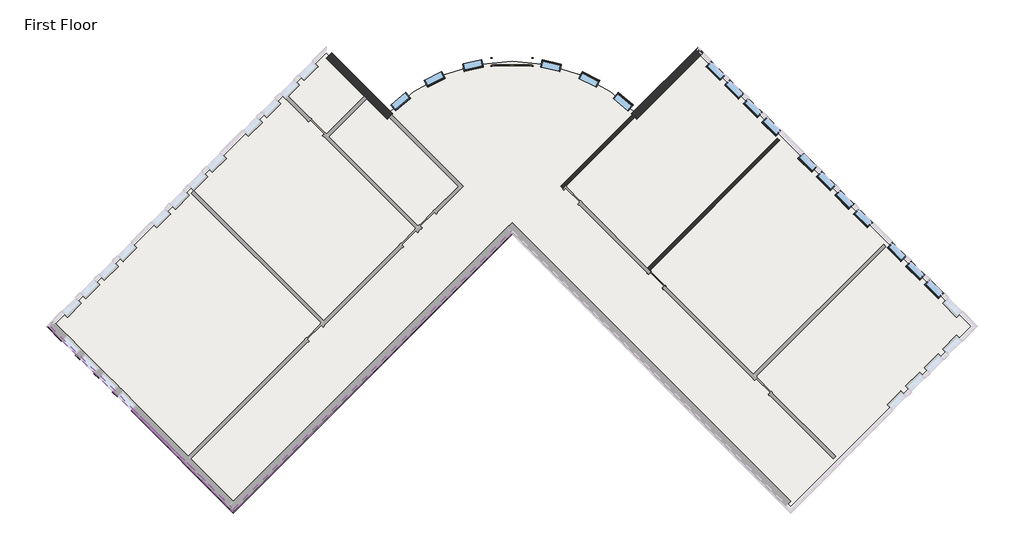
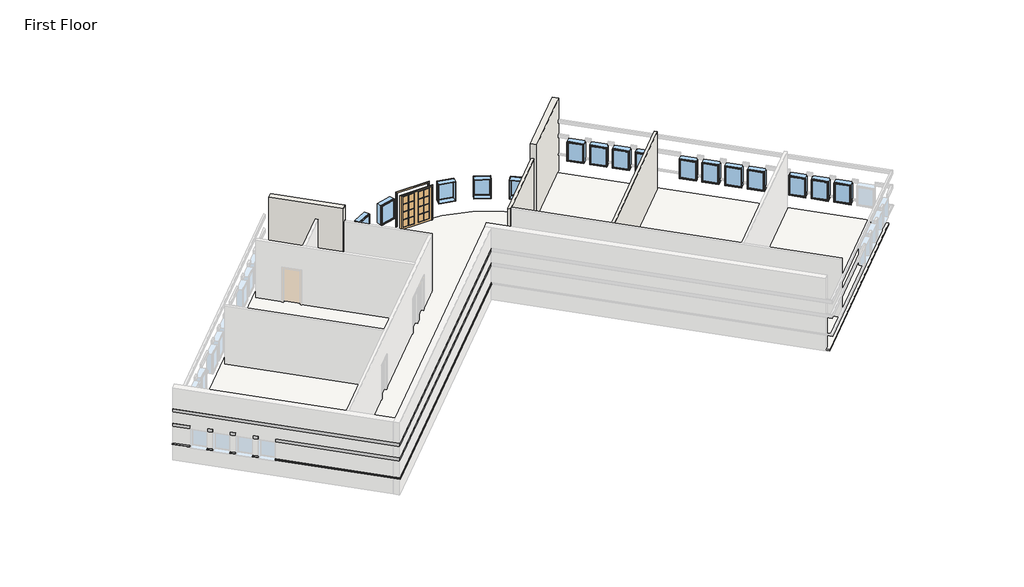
# One storey, part 2 of 3: 17 windows, 6 proxies, 4 walls, 2 doors, 1 slab.
"""IFC4 building model written with IfcOpenShell, lengths in millimetres."""

from ifc_helpers import new_model, si_unit, point, frame, frame_2d, origin, origin_with_axes, place, context, project, spatial, polyline, circle_curve, trimmed, segment, composite_curve, outline, extrude, faceted_brep, transform, mapped, element, save
from ifc_brep_helpers import plane_surface, cylinder_surface, revolved_surface, advanced_brep
from components import door_0a477ef8, door_5f5b55da, window_15c49d37, window_0e2fc6ce

model = new_model("IFC4")

# Units and contexts
model_context = context("Model", 3, world=origin())
ifc_project = project(units=[si_unit("LENGTHUNIT", "METRE", prefix="MILLI")], contexts=[model_context])

# Site, building, storey
site = spatial("IfcSite", under=ifc_project)
building = spatial("IfcBuilding", under=site)
storey = spatial("IfcBuildingStorey", under=building, Name="First Floor", Elevation=0.0)

# Proxies
placement = place(None, origin())
element("IfcBuildingElementProxy", 1, Name="Wall Sweeps", at=placement, inside=storey, context=model_context, shape_type="Brep", body=[
    faceted_brep([(-2868.0283643, 3082.7471418, 1085.85), (-2868.0283643, 2952.533428, 1085.85), (-2868.0283643, 2903.1420194, 1041.4), (-2868.0283643, 2903.1420194, 1016.0), (-2868.0283643, 3082.7471418, 1016.0), (-15799.5971786, -9848.8216726, 1085.85), (-15799.5971786, -9848.8216726, 1016.0), (-15799.5971786, -10028.426795, 1016.0), (-15799.5971786, -10028.426795, 1041.4), (-15799.5971786, -9979.0353863, 1085.85), (-2933.1352212, 3017.6402849, 1085.85), (-2933.1352212, 3017.6402849, 1016.0)], [[[0, 1, 2, 3, 4]], [[5, 6, 7, 8, 9]], [[1, 0, 10, 5, 9]], [[2, 1, 9, 8]], [[3, 2, 8, 7]], [[4, 3, 7, 6, 11]], [[0, 4, 11, 6, 5, 10]]]),
])
element("IfcBuildingElementProxy", 2, Name="Wall Sweeps", at=placement, inside=storey, context=model_context, shape_type="Brep", body=[
    faceted_brep([(-2868.0283643, 2952.533428, 2336.8), (-2868.0283643, 2952.533428, 2133.6), (-2868.0283643, 3082.7471418, 2133.6), (-2868.0283643, 3082.7471418, 2336.8), (-15799.5971786, -9979.0353863, 2336.8), (-15799.5971786, -9848.8216726, 2336.8), (-15799.5971786, -9848.8216726, 2133.6), (-15799.5971786, -9979.0353863, 2133.6), (-2933.1352212, 3017.6402849, 2133.6), (-2933.1352212, 3017.6402849, 2336.8)], [[[0, 1, 2, 3]], [[4, 5, 6, 7]], [[1, 0, 4, 7]], [[2, 1, 7, 6, 8]], [[3, 2, 8, 6, 5, 9]], [[0, 3, 9, 5, 4]]]),
])
element("IfcBuildingElementProxy", 3, Name="Wall Sweeps", at=placement, inside=storey, context=model_context, shape_type="Brep", body=[
    faceted_brep([(-2868.0283643, 2952.533428, 3251.2), (-2868.0283643, 2952.533428, 3048.0), (-2868.0283643, 3082.7471418, 3048.0), (-2868.0283643, 3082.7471418, 3251.2), (-15799.5971786, -9979.0353863, 3251.2), (-15799.5971786, -9848.8216726, 3251.2), (-15799.5971786, -9848.8216726, 3048.0), (-15799.5971786, -9979.0353863, 3048.0), (-2933.1352212, 3017.6402849, 3048.0), (-2933.1352212, 3017.6402849, 3251.2)], [[[0, 1, 2, 3]], [[4, 5, 6, 7]], [[1, 0, 4, 7]], [[2, 1, 7, 6, 8]], [[3, 2, 8, 6, 5, 9]], [[0, 3, 9, 5, 4]]]),
])
element("IfcBuildingElementProxy", 4, Name="Wall Sweeps", at=placement, inside=storey, context=model_context, shape_type="Brep", body=[
    faceted_brep([(-15799.5971786, -9848.8216726, 1085.85), (-15799.5971786, -9979.0353863, 1085.85), (-15799.5971786, -10028.426795, 1041.4), (-15799.5971786, -10028.426795, 1016.0), (-15799.5971786, -9848.8216726, 1016.0), (-20459.2275735, -5189.1912777, 1085.85), (-20459.2275735, -5189.1912777, 1016.0), (-20524.3344303, -5254.2981346, 1016.0), (-20549.0301347, -5278.993839, 1016.0), (-20549.0301347, -5278.993839, 1041.4), (-20524.3344303, -5254.2981346, 1085.85), (-15983.6924291, -9664.7264221, 1085.85), (-15983.6924291, -9664.7264221, 1016.0)], [[[0, 1, 2, 3, 4]], [[5, 6, 7, 8, 9, 10]], [[1, 0, 11, 5, 10]], [[2, 1, 10, 9]], [[3, 2, 9, 8]], [[4, 3, 8, 7, 6, 12]], [[0, 4, 12, 6, 5, 11]]]),
    faceted_brep([(-21105.8060142, -4542.612837, 1085.85), (-21170.9128711, -4607.7196939, 1085.85), (-21195.6085754, -4632.4153982, 1041.4), (-21195.6085754, -4632.4153982, 1016.0), (-21170.9128711, -4607.7196939, 1016.0), (-21105.8060142, -4542.612837, 1016.0), (-21321.3321611, -4327.0866901, 1085.85), (-21321.3321611, -4327.0866901, 1016.0), (-21386.439018, -4392.193547, 1016.0), (-21411.1347223, -4416.8892513, 1016.0), (-21411.1347223, -4416.8892513, 1041.4), (-21386.439018, -4392.193547, 1085.85)], [[[0, 1, 2, 3, 4, 5]], [[6, 7, 8, 9, 10, 11]], [[1, 0, 6, 11]], [[2, 1, 11, 10]], [[3, 2, 10, 9]], [[5, 4, 3, 9, 8, 7]], [[0, 5, 7, 6]]]),
    faceted_brep([(-21967.9106018, -3680.5082494, 1085.85), (-22033.0174587, -3745.6151063, 1085.85), (-22057.713163, -3770.3108106, 1041.4), (-22057.713163, -3770.3108106, 1016.0), (-22033.0174587, -3745.6151063, 1016.0), (-21967.9106018, -3680.5082494, 1016.0), (-22183.4367487, -3464.9821025, 1085.85), (-22183.4367487, -3464.9821025, 1016.0), (-22248.5436056, -3530.0889594, 1016.0), (-22273.2393099, -3554.7846637, 1016.0), (-22273.2393099, -3554.7846637, 1041.4), (-22248.5436056, -3530.0889594, 1085.85)], [[[0, 1, 2, 3, 4, 5]], [[6, 7, 8, 9, 10, 11]], [[1, 0, 6, 11]], [[2, 1, 11, 10]], [[3, 2, 10, 9]], [[5, 4, 3, 9, 8, 7]], [[0, 5, 7, 6]]]),
    faceted_brep([(-22830.0151894, -2818.4036618, 1085.85), (-22895.1220463, -2883.5105187, 1085.85), (-22919.8177506, -2908.206223, 1041.4), (-22919.8177506, -2908.206223, 1016.0), (-22895.1220463, -2883.5105187, 1016.0), (-22830.0151894, -2818.4036618, 1016.0), (-23045.5413363, -2602.8775149, 1085.85), (-23045.5413363, -2602.8775149, 1016.0), (-23110.6481932, -2667.9843718, 1016.0), (-23135.3438975, -2692.6800761, 1016.0), (-23135.3438975, -2692.6800761, 1041.4), (-23110.6481932, -2667.9843718, 1085.85)], [[[0, 1, 2, 3, 4, 5]], [[6, 7, 8, 9, 10, 11]], [[1, 0, 6, 11]], [[2, 1, 11, 10]], [[3, 2, 10, 9]], [[5, 4, 3, 9, 8, 7]], [[0, 5, 7, 6]]]),
    faceted_brep([(-23692.119777, -1956.2990742, 1085.85), (-23757.2266339, -2021.405931, 1085.85), (-23781.9223383, -2046.1016354, 1041.4), (-23781.9223383, -2046.1016354, 1016.0), (-23757.2266339, -2021.405931, 1016.0), (-23692.119777, -1956.2990742, 1016.0), (-24290.4293411, -1357.9895101, 1085.85), (-24290.4293411, -1357.9895101, 1016.0), (-24470.0344635, -1357.9895101, 1016.0), (-24470.0344635, -1357.9895101, 1041.4), (-24420.6430549, -1357.9895101, 1085.85)], [[[0, 1, 2, 3, 4, 5]], [[6, 7, 8, 9, 10]], [[1, 0, 6, 10]], [[2, 1, 10, 9]], [[3, 2, 9, 8]], [[5, 4, 3, 8, 7]], [[0, 5, 7, 6]]]),
])
element("IfcBuildingElementProxy", 5, Name="Wall Sweeps", at=placement, inside=storey, context=model_context, shape_type="Brep", body=[
    faceted_brep([(-15799.5971786, -9979.0353863, 2336.8), (-15799.5971786, -9979.0353863, 2133.6), (-15799.5971786, -9848.8216726, 2133.6), (-15799.5971786, -9848.8216726, 2336.8), (-20524.3344303, -5254.2981346, 2336.8), (-20459.2275735, -5189.1912777, 2336.8), (-20459.2275735, -5189.1912777, 2133.6), (-20524.3344303, -5254.2981346, 2133.6), (-16048.799286, -9729.833279, 2336.8), (-16048.799286, -9729.833279, 2133.6), (-15983.6924291, -9664.7264221, 2133.6), (-15983.6924291, -9664.7264221, 2336.8)], [[[0, 1, 2, 3]], [[4, 5, 6, 7]], [[1, 0, 8, 4, 7, 9]], [[2, 1, 9, 7, 6, 10]], [[3, 2, 10, 6, 5, 11]], [[0, 3, 11, 5, 4, 8]]]),
    faceted_brep([(-21170.9128711, -4607.7196939, 2336.8), (-21170.9128711, -4607.7196939, 2133.6), (-21105.8060142, -4542.612837, 2133.6), (-21105.8060142, -4542.612837, 2336.8), (-21386.439018, -4392.193547, 2336.8), (-21321.3321611, -4327.0866901, 2336.8), (-21321.3321611, -4327.0866901, 2133.6), (-21386.439018, -4392.193547, 2133.6)], [[[0, 1, 2, 3]], [[4, 5, 6, 7]], [[1, 0, 4, 7]], [[2, 1, 7, 6]], [[3, 2, 6, 5]], [[0, 3, 5, 4]]]),
    faceted_brep([(-22033.0174587, -3745.6151063, 2336.8), (-22033.0174587, -3745.6151063, 2133.6), (-21967.9106018, -3680.5082494, 2133.6), (-21967.9106018, -3680.5082494, 2336.8), (-22248.5436056, -3530.0889594, 2336.8), (-22183.4367487, -3464.9821025, 2336.8), (-22183.4367487, -3464.9821025, 2133.6), (-22248.5436056, -3530.0889594, 2133.6)], [[[0, 1, 2, 3]], [[4, 5, 6, 7]], [[1, 0, 4, 7]], [[2, 1, 7, 6]], [[3, 2, 6, 5]], [[0, 3, 5, 4]]]),
    faceted_brep([(-22895.1220463, -2883.5105187, 2336.8), (-22895.1220463, -2883.5105187, 2133.6), (-22830.0151894, -2818.4036618, 2133.6), (-22830.0151894, -2818.4036618, 2336.8), (-23110.6481932, -2667.9843718, 2336.8), (-23045.5413363, -2602.8775149, 2336.8), (-23045.5413363, -2602.8775149, 2133.6), (-23110.6481932, -2667.9843718, 2133.6)], [[[0, 1, 2, 3]], [[4, 5, 6, 7]], [[1, 0, 4, 7]], [[2, 1, 7, 6]], [[3, 2, 6, 5]], [[0, 3, 5, 4]]]),
    faceted_brep([(-23757.2266339, -2021.405931, 2336.8), (-23757.2266339, -2021.405931, 2133.6), (-23692.119777, -1956.2990742, 2133.6), (-23692.119777, -1956.2990742, 2336.8), (-24420.6430549, -1357.9895101, 2336.8), (-24290.4293411, -1357.9895101, 2336.8), (-24290.4293411, -1357.9895101, 2133.6), (-24420.6430549, -1357.9895101, 2133.6)], [[[0, 1, 2, 3]], [[4, 5, 6, 7]], [[1, 0, 4, 7]], [[2, 1, 7, 6]], [[3, 2, 6, 5]], [[0, 3, 5, 4]]]),
])
element("IfcBuildingElementProxy", 6, Name="Wall Sweeps", at=placement, inside=storey, context=model_context, shape_type="Brep", body=[
    faceted_brep([(-15799.5971786, -9979.0353863, 3251.2), (-15799.5971786, -9979.0353863, 3048.0), (-15799.5971786, -9848.8216726, 3048.0), (-15799.5971786, -9848.8216726, 3251.2), (-24420.6430549, -1357.9895101, 3251.2), (-24290.4293411, -1357.9895101, 3251.2), (-24290.4293411, -1357.9895101, 3048.0), (-24420.6430549, -1357.9895101, 3048.0), (-16048.799286, -9729.833279, 3251.2), (-16048.799286, -9729.833279, 3048.0), (-15983.6924291, -9664.7264221, 3048.0), (-15983.6924291, -9664.7264221, 3251.2)], [[[0, 1, 2, 3]], [[4, 5, 6, 7]], [[1, 0, 8, 4, 7, 9]], [[2, 1, 9, 7, 6, 10]], [[3, 2, 10, 6, 5, 11]], [[0, 3, 11, 5, 4, 8]]]),
])

# Doors
door_shape = door_0a477ef8(model_context)
element("IfcDoor", 7, ObjectType="Double-Glass 2 : 72\" x 84\"", at=placement, inside=storey, context=model_context, shape_type="MappedRepresentation", body=[
    mapped(door_shape, transform((-2868.7603243, 10905.5717204, 0.0), x_axis=(-0.9999999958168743, -9.146721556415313e-05, 0.0), y_axis=(9.146721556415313e-05, -0.9999999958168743, 0.0), z_axis=(0.0, 0.0, 1.0))),
])
door_2_shape = door_5f5b55da(model_context)
element("IfcDoor", 8, ObjectType="Single-Glass 1 : 36\" x 84\"", at=placement, inside=storey, context=model_context, shape_type="MappedRepresentation", body=[
    mapped(door_2_shape, transform((3846.9581502, 797.271959, 0.0), x_axis=(-0.7071067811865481, 0.7071067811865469, 0.0), y_axis=(-0.7071067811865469, -0.7071067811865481, 0.0), z_axis=(0.0, 0.0, 1.0))),
])

# Slab
element("IfcSlab", 9, ObjectType="4\" Concrete Slab", at=placement, inside=storey, context=model_context, shape_type="SweptSolid", body=[
    extrude(outline(composite_curve([segment(polyline([(-11489.0742405, 11308.6617487), (-8661.5174871, 8481.1049952)]), True, "CONTINUOUS"), segment(trimmed(circle_curve(frame_2d((-2868.0283643, 2903.1420194)), 8042.275), [point((-8661.5174871, 8481.1049952))], [point((2925.4607585, 8481.1049952))], False, "CARTESIAN"), True, "CONTINUOUS"), segment(polyline([(2925.4607585, 8481.1049952), (5753.0175119, 11308.6617487), (18419.6687707, -1357.9895101), (10063.54045, -9714.1178307), (-2868.0283643, 3217.4509836), (-15799.5971786, -9714.1178307), (-24155.7254993, -1357.9895101), (-11489.0742405, 11308.6617487)]), True, "CONTINUOUS")], self_intersect=False)), frame((0.0, 0.0, -101.6), z_axis=(0.0, 0.0, 1.0), x_axis=(1.0, 0.0, 0.0)), (0.0, 0.0, 1.0), 101.6),
])

# Walls
element("IfcWall", 10, ObjectType="Exterior - Split Face and CMU on Mtl. Stud", at=placement, inside=storey, context=model_context, shape_type="AdvancedBrep", body=[
    advanced_brep(
    [(2921.9555443, 8244.1131219, 4572.0), (5753.0175119, 11075.1750895, 4572.0), (6002.2196193, 11324.3771969, 4572.0), (5753.0175119, 11573.5793042, 4572.0), (2926.4294954, 8746.9912878, 4572.0), (2677.2250436, 8497.7868359, 4572.0), (2921.9555443, 8244.1131219, 0.0), (5753.0175119, 11075.1750895, 0.0), (6002.2196193, 11324.3771969, 0.0), (6002.2196193, 11324.3771969, 1016.0), (5937.1127624, 11259.27034, 1016.0), (5937.1127624, 11259.27034, 1085.85), (6002.2196193, 11324.3771969, 1085.85), (6002.2196193, 11324.3771969, 2133.6), (5937.1127624, 11259.27034, 2133.6), (5937.1127624, 11259.27034, 2336.8), (6002.2196193, 11324.3771969, 2336.8), (6002.2196193, 11324.3771969, 3048.0), (5937.1127624, 11259.27034, 3048.0), (5937.1127624, 11259.27034, 3251.2), (6002.2196193, 11324.3771969, 3251.2), (5753.0175119, 11573.5793042, 3251.2), (2926.4294954, 8746.9912878, 3251.2), (2861.3220456, 8681.8838379, 3251.2), (2861.3220456, 8681.8838379, 3048.0), (2926.4294954, 8746.9912878, 3048.0), (5753.0175119, 11573.5793042, 3048.0), (5753.0175119, 11573.5793042, 2336.8), (2926.4294954, 8746.9912878, 2336.8), (2861.3220456, 8681.8838379, 2336.8), (2861.3220456, 8681.8838379, 2133.6), (2926.4294954, 8746.9912878, 2133.6), (5753.0175119, 11573.5793042, 2133.6), (5753.0175119, 11573.5793042, 1085.85), (2926.4294954, 8746.9912878, 1085.85), (2861.3220456, 8681.8838379, 1085.85), (2861.3220456, 8681.8838379, 1016.0), (2926.4294954, 8746.9912878, 1016.0), (5753.0175119, 11573.5793042, 1016.0), (5753.0175119, 11573.5793042, 0.0), (2926.4294954, 8746.9912878, 0.0), (2677.2250436, 8497.7868359, 0.0), (2821.6573727, 8350.8353182, 0.0), (2742.2400511, 8432.5881297, 0.0), (5818.1243688, 11508.4724474, 0.0), (2712.9543912, 8462.145299, 0.0), (5753.0175119, 11443.3655905, 1085.85), (2926.3399919, 8616.6880705, 1085.85), (2926.3399919, 8616.6880705, 1016.0), (5753.0175119, 11443.3655905, 1016.0), (2926.3399919, 8616.6880705, 2133.6), (5753.0175119, 11443.3655905, 2133.6), (2926.3399919, 8616.6880705, 2336.8), (5753.0175119, 11443.3655905, 2336.8), (2926.3399919, 8616.6880705, 3048.0), (5753.0175119, 11443.3655905, 3048.0), (2926.3399919, 8616.6880705, 3251.2), (5753.0175119, 11443.3655905, 3251.2)],
    [
        (0, 1),
        (1, 2),
        (2, 3),
        (3, 4),
        (4, 5),
        (5, 0, circle_curve(frame((-2868.0283643, 2903.1420194, 4572.0), z_axis=(0.0, 0.0, -1.0), x_axis=(1.0, 0.0, 0.0)), 7877.175)),
        (6, 7),
        (7, 8),
        (8, 9),
        (9, 10),
        (10, 11),
        (11, 12),
        (12, 13),
        (13, 14),
        (14, 15),
        (15, 16),
        (16, 17),
        (17, 18),
        (18, 19),
        (19, 20),
        (20, 2),
        (0, 6),
        (3, 21),
        (21, 22),
        (22, 23),
        (23, 24),
        (24, 25),
        (25, 26),
        (26, 27),
        (27, 28),
        (28, 29),
        (29, 30),
        (30, 31),
        (31, 32),
        (32, 33),
        (33, 34),
        (34, 35),
        (35, 36),
        (36, 37),
        (37, 38),
        (38, 39),
        (39, 40),
        (40, 41),
        (41, 5),
        (6, 42, circle_curve(frame((-2868.0283643, 2903.1420194, 0.0), z_axis=(0.0, 0.0, 1.0), x_axis=(1.0, 0.0, 0.0)), 7877.175)),
        (42, 43, circle_curve(frame((-2868.0283643, 2903.1420194, 0.0), z_axis=(0.0, 0.0, 1.0), x_axis=(1.0, 0.0, 0.0)), 7877.1750053)),
        (43, 44),
        (44, 8),
        (20, 21),
        (44, 39),
        (38, 9),
        (12, 33),
        (32, 13),
        (16, 27),
        (26, 17),
        (43, 45, circle_curve(frame((-2868.0283643, 2903.1420194, 0.0), z_axis=(0.0, 0.0, 1.0), x_axis=(1.0, 0.0, 0.0)), 7877.175)),
        (45, 41, circle_curve(frame((-2868.0283643, 2903.1420194, 0.0), z_axis=(0.0, 0.0, 1.0), x_axis=(1.0, 0.0, 0.0)), 7877.175)),
        (46, 47),
        (47, 35, circle_curve(frame((-2868.0283643, 2903.1420194, 1085.85), z_axis=(0.0, 0.0, 1.0), x_axis=(0.6844196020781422, 0.7290883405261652, 0.0)), 8137.525)),
        (11, 46),
        (48, 49),
        (49, 10),
        (36, 48, circle_curve(frame((-2868.0283643, 2903.1420194, 1016.0), z_axis=(0.0, 0.0, -1.0), x_axis=(0.6844196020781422, 0.7290883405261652, 0.0)), 8137.525)),
        (47, 48),
        (46, 49),
        (50, 51),
        (51, 14),
        (30, 50, circle_curve(frame((-2868.0283643, 2903.1420194, 2133.6), z_axis=(0.0, 0.0, -1.0), x_axis=(0.6844196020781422, 0.7290883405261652, 0.0)), 8137.525)),
        (52, 50),
        (29, 52, circle_curve(frame((-2868.0283643, 2903.1420194, 2336.8), z_axis=(0.0, 0.0, -1.0), x_axis=(0.6844196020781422, 0.7290883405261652, 0.0)), 8137.525)),
        (53, 52),
        (15, 53),
        (53, 51),
        (54, 55),
        (55, 18),
        (24, 54, circle_curve(frame((-2868.0283643, 2903.1420194, 3048.0), z_axis=(0.0, 0.0, -1.0), x_axis=(-0.7040995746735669, 0.7101012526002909, 0.0)), 8137.525)),
        (56, 54),
        (23, 56, circle_curve(frame((-2868.0283643, 2903.1420194, 3251.2), z_axis=(0.0, 0.0, -1.0), x_axis=(-0.7040995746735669, 0.7101012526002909, 0.0)), 8137.525)),
        (57, 56),
        (19, 57),
        (57, 55),
    ],
    [
        plane_surface(frame((5877.6185656, 11199.7761432, 4572.0), z_axis=(0.0, 0.0, 1.0), x_axis=(-0.707106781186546, 0.7071067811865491, 0.0))),
        plane_surface(frame((2984.8535626, 8307.0111402, 0.0), z_axis=(0.707106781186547, -0.7071067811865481, 0.0), x_axis=(0.7071067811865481, 0.707106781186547, 0.0))),
        plane_surface(frame((2735.6514552, 8556.2132476, 0.0), z_axis=(-0.707106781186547, 0.7071067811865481, 0.0), x_axis=(-0.7071067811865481, -0.707106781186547, 0.0))),
        plane_surface(frame((3050.2065213, 8372.3640989, 0.0), z_axis=(0.0, 0.0, -1.0000000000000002), x_axis=(-0.7071067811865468, 0.7071067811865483, 0.0))),
        plane_surface(frame((5753.0175119, 11573.5793042, 0.0), z_axis=(0.7071067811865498, 0.7071067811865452, 0.0), x_axis=(-0.7071067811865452, 0.7071067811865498, 0.0))),
        plane_surface(frame((0.0, 0.0, 0.0), z_axis=(0.0, 0.0, -1.0), x_axis=(1.0, 0.0, 0.0))),
        revolved_surface(polyline([(5009.146635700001, 2903.1420194, 0.0), (5009.146635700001, 2903.1420194, 4572.0)]), (-2868.0283643, 2903.1420194, 0.0), (0.0, 0.0, -1.0)),
        plane_surface(frame((-2868.0283643, 2903.1420194, 1085.85), z_axis=(0.0, 0.0, -1.0), x_axis=(0.6844196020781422, 0.7290883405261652, 0.0))),
        plane_surface(frame((-2868.0283643, 2903.1420194, 1016.0), z_axis=(0.0, 0.0, 1.0), x_axis=(0.6844196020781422, 0.7290883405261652, 0.0))),
        cylinder_surface(frame((-2868.0283643, 2903.1420194, 1016.0), z_axis=(0.0, 0.0, -1.0), x_axis=(0.6844196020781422, 0.7290883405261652, 0.0)), 8137.525),
        plane_surface(frame((2926.3399919, 8616.6880705, 1016.0), z_axis=(-0.7071067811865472, 0.7071067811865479, 0.0), x_axis=(0.7071067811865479, 0.7071067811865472, 0.0))),
        plane_surface(frame((5753.0175119, 11443.3655905, 1016.0), z_axis=(0.7071067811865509, 0.7071067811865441, 0.0), x_axis=(0.7071067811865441, -0.7071067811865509, 0.0))),
        plane_surface(frame((-2868.0283643, 2903.1420194, 2133.6), z_axis=(0.0, 0.0, 1.0), x_axis=(0.6844196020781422, 0.7290883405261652, 0.0))),
        cylinder_surface(frame((-2868.0283643, 2903.1420194, 2133.6), z_axis=(0.0, 0.0, -1.0), x_axis=(0.6844196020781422, 0.7290883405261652, 0.0)), 8137.525),
        plane_surface(frame((-2868.0283643, 2903.1420194, 2336.8), z_axis=(0.0, 0.0, -1.0), x_axis=(0.6844196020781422, 0.7290883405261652, 0.0))),
        plane_surface(frame((2926.3399919, 8616.6880705, 2133.6), z_axis=(-0.707106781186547, 0.707106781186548, 0.0), x_axis=(0.707106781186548, 0.707106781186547, 0.0))),
        plane_surface(frame((5753.0175119, 11443.3655905, 2133.6), z_axis=(0.7071067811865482, 0.7071067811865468, 0.0), x_axis=(0.7071067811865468, -0.7071067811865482, 0.0))),
        plane_surface(frame((-2868.0283643, 2903.1420194, 3048.0), z_axis=(0.0, 0.0, 1.0), x_axis=(-0.7040995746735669, 0.7101012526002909, 0.0))),
        cylinder_surface(frame((-2868.0283643, 2903.1420194, 3048.0), z_axis=(0.0, 0.0, -1.0), x_axis=(-0.7040995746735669, 0.7101012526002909, 0.0)), 8137.525),
        plane_surface(frame((-2868.0283643, 2903.1420194, 3251.2), z_axis=(0.0, 0.0, -1.0), x_axis=(-0.7040995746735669, 0.7101012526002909, 0.0))),
        plane_surface(frame((2926.3399919, 8616.6880705, 3048.0), z_axis=(-0.707106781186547, 0.7071067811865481, 0.0), x_axis=(0.7071067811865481, 0.707106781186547, 0.0))),
        plane_surface(frame((5753.0175119, 11443.3655905, 3048.0), z_axis=(0.7071067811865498, 0.7071067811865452, 0.0), x_axis=(0.7071067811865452, -0.7071067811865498, 0.0))),
    ],
    [
        (0, [[1, 2, 3, 4, 5, 6]]),
        (1, [[7, 8, 9, 10, 11, 12, 13, 14, 15, 16, 17, 18, 19, 20, 21, -2, -1, 22]]),
        (2, [[-5, -4, 23, 24, 25, 26, 27, 28, 29, 30, 31, 32, 33, 34, 35, 36, 37, 38, 39, 40, 41, 42, 43, 44]]),
        (3, [[-8, -7, 45, 46, 47, 48]]),
        (4, [[-3, -21, 49, -23]]),
        (4, [[-48, 50, -41, 51, -9]]),
        (4, [[52, -35, 53, -13]]),
        (4, [[54, -29, 55, -17]]),
        (5, [[-43, -42, -50, -47, 56, 57]]),
        (6, [[-6, -44, -57, -56, -46, -45, -22]]),
        (7, [[58, 59, -37, -36, -52, -12, 60]]),
        (8, [[61, 62, -10, -51, -40, -39, 63]]),
        (9, [[64, -63, -38, -59]]),
        (10, [[-58, 65, -61, -64]]),
        (11, [[-65, -60, -11, -62]]),
        (12, [[66, 67, -14, -53, -34, -33, 68]]),
        (13, [[69, -68, -32, 70]]),
        (14, [[71, -70, -31, -30, -54, -16, 72]]),
        (15, [[-66, -69, -71, 73]]),
        (16, [[-73, -72, -15, -67]]),
        (17, [[74, 75, -18, -55, -28, -27, 76]]),
        (18, [[77, -76, -26, 78]]),
        (19, [[79, -78, -25, -24, -49, -20, 80]]),
        (20, [[-74, -77, -79, 81]]),
        (21, [[-81, -80, -19, -75]]),
    ],
),
])
element("IfcWall", 11, ObjectType="Exterior - Split Face and CMU on Mtl. Stud", at=placement, inside=storey, context=model_context, shape_type="AdvancedBrep", body=[
    advanced_brep(
    [(-11489.0742405, 11075.1750895, 4572.0), (-8658.0122729, 8244.1131219, 4572.0), (-8413.2817722, 8497.7868359, 4572.0), (-8662.486224, 8746.9912878, 4572.0), (-11239.8721332, 11324.3771969, 4572.0), (-11489.0742405, 11075.1750895, 0.0), (-9728.9440408, 9315.0448898, 0.0), (-9618.9359033, 9205.0367523, 0.0), (-8658.0122729, 8244.1131219, 0.0), (-8413.2817722, 8497.7868359, 0.0), (-8662.486224, 8746.9912878, 0.0), (-11239.8721332, 11324.3771969, 0.0), (-11239.8721332, 11324.3771969, 1016.0), (-8662.486224, 8746.9912878, 1016.0), (-8597.3787742, 8681.8838379, 1016.0), (-8597.3787742, 8681.8838379, 1085.85), (-8662.486224, 8746.9912878, 1085.85), (-11239.8721332, 11324.3771969, 1085.85), (-11239.8721332, 11324.3771969, 2133.6), (-8662.486224, 8746.9912878, 2133.6), (-8597.3787742, 8681.8838379, 2133.6), (-8597.3787742, 8681.8838379, 2336.8), (-8662.486224, 8746.9912878, 2336.8), (-11239.8721332, 11324.3771969, 2336.8), (-11239.8721332, 11324.3771969, 3048.0), (-8662.486224, 8746.9912878, 3048.0), (-8597.3787742, 8681.8838379, 3048.0), (-8597.3787742, 8681.8838379, 3251.2), (-8662.486224, 8746.9912878, 3251.2), (-11239.8721332, 11324.3771969, 3251.2), (-11304.9789901, 11259.27034, 0.0), (-8478.2967797, 8432.5881297, 0.0), (-11304.9789901, 11259.27034, 3251.2), (-11304.9789901, 11259.27034, 3048.0), (-11304.9789901, 11259.27034, 2336.8), (-11304.9789901, 11259.27034, 2133.6), (-11304.9789901, 11259.27034, 1085.85), (-11304.9789901, 11259.27034, 1016.0), (-8662.3967205, 8616.6880705, 1085.85), (-8662.3967205, 8616.6880705, 1016.0), (-8662.3967205, 8616.6880705, 2336.8), (-8662.3967205, 8616.6880705, 2133.6), (-8662.3967205, 8616.6880705, 3251.2), (-8662.3967205, 8616.6880705, 3048.0)],
    [
        (0, 1),
        (1, 2, circle_curve(frame((-2868.0283643, 2903.1420194, 4572.0), z_axis=(0.0, 0.0, -1.0), x_axis=(1.0, 0.0, 0.0)), 7877.175)),
        (2, 3),
        (3, 4),
        (4, 0),
        (5, 6),
        (6, 7),
        (7, 8),
        (8, 1),
        (0, 5),
        (2, 9),
        (9, 10),
        (10, 11),
        (11, 12),
        (12, 13),
        (13, 14),
        (14, 15),
        (15, 16),
        (16, 17),
        (17, 18),
        (18, 19),
        (19, 20),
        (20, 21),
        (21, 22),
        (22, 23),
        (23, 24),
        (24, 25),
        (25, 26),
        (26, 27),
        (27, 28),
        (28, 29),
        (29, 4),
        (5, 30),
        (30, 31),
        (31, 8, circle_curve(frame((-2868.0283643, 2903.1420194, 0.0), z_axis=(0.0, 0.0, 1.0), x_axis=(1.0, 0.0, 0.0)), 7877.175)),
        (29, 32),
        (32, 33),
        (33, 24),
        (23, 34),
        (34, 35),
        (35, 18),
        (17, 36),
        (36, 37),
        (37, 12),
        (11, 30),
        (9, 31, circle_curve(frame((-2868.0283643, 2903.1420194, 0.0), z_axis=(0.0, 0.0, 1.0), x_axis=(1.0, 0.0, 0.0)), 7877.175)),
        (38, 39),
        (39, 37),
        (36, 38),
        (15, 38, circle_curve(frame((-2868.0283643, 2903.1420194, 1085.85), z_axis=(0.0, 0.0, 1.0), x_axis=(-0.7040995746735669, 0.7101012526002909, 0.0)), 8137.525)),
        (39, 14, circle_curve(frame((-2868.0283643, 2903.1420194, 1016.0), z_axis=(0.0, 0.0, -1.0), x_axis=(-0.7040995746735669, 0.7101012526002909, 0.0)), 8137.525)),
        (40, 41),
        (41, 35),
        (34, 40),
        (41, 20, circle_curve(frame((-2868.0283643, 2903.1420194, 2133.6), z_axis=(0.0, 0.0, -1.0), x_axis=(-0.7120553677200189, 0.7021233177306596, 0.0)), 8137.525)),
        (40, 21, circle_curve(frame((-2868.0283643, 2903.1420194, 2336.8), z_axis=(0.0, 0.0, -1.0), x_axis=(-0.7120553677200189, 0.7021233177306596, 0.0)), 8137.525)),
        (42, 43),
        (43, 33),
        (32, 42),
        (43, 26, circle_curve(frame((-2868.0283643, 2903.1420194, 3048.0), z_axis=(0.0, 0.0, -1.0), x_axis=(-0.7120553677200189, 0.7021233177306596, 0.0)), 8137.525)),
        (42, 27, circle_curve(frame((-2868.0283643, 2903.1420194, 3251.2), z_axis=(0.0, 0.0, -1.0), x_axis=(-0.7120553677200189, 0.7021233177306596, 0.0)), 8137.525)),
    ],
    [
        plane_surface(frame((-8786.2632499, 8372.3640989, 4572.0), z_axis=(0.0, 0.0, 1.0), x_axis=(0.7071067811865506, 0.7071067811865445, 0.0))),
        plane_surface(frame((-11738.2763479, 11324.3771969, 0.0), z_axis=(-0.7071067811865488, -0.7071067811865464, 0.0), x_axis=(0.7071067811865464, -0.7071067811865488, 0.0))),
        plane_surface(frame((-11489.0742405, 11573.5793042, 0.0), z_axis=(0.7071067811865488, 0.7071067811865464, 0.0), x_axis=(-0.7071067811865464, 0.7071067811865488, 0.0))),
        plane_surface(frame((-11613.6752942, 11199.7761432, 0.0), z_axis=(0.0, 0.0, -1.0000000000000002), x_axis=(0.7071067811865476, 0.7071067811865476, 0.0))),
        plane_surface(frame((-24171.4409475, -1607.1916175, 0.0), z_axis=(-0.7071067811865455, 0.7071067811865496, 0.0), x_axis=(0.7071067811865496, 0.7071067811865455, 0.0))),
        plane_surface(frame((0.0, 0.0, 0.0), z_axis=(0.0, 0.0, -1.0), x_axis=(1.0, 0.0, 0.0))),
        revolved_surface(polyline([(5009.146635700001, 2903.1420194, 0.0), (5009.146635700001, 2903.1420194, 4572.0)]), (-2868.0283643, 2903.1420194, 0.0), (0.0, 0.0, -1.0)),
        plane_surface(frame((-11489.0742405, 11443.3655905, 1016.0), z_axis=(0.7071067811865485, 0.7071067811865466, 0.0), x_axis=(0.7071067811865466, -0.7071067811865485, 0.0))),
        plane_surface(frame((-2868.0283643, 2903.1420194, 1085.85), z_axis=(0.0, 0.0, -1.0), x_axis=(-0.7040995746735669, 0.7101012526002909, 0.0))),
        plane_surface(frame((-2868.0283643, 2903.1420194, 1016.0), z_axis=(0.0, 0.0, 1.0), x_axis=(-0.7040995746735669, 0.7101012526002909, 0.0))),
        cylinder_surface(frame((-2868.0283643, 2903.1420194, 1016.0), z_axis=(0.0, 0.0, -1.0), x_axis=(-0.7040995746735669, 0.7101012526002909, 0.0)), 8137.525),
        plane_surface(frame((-11489.0742405, 11443.3655905, 2133.6), z_axis=(0.7071067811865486, 0.7071067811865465, 0.0), x_axis=(0.7071067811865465, -0.7071067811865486, 0.0))),
        plane_surface(frame((-2868.0283643, 2903.1420194, 2133.6), z_axis=(0.0, 0.0, 1.0), x_axis=(-0.7120553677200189, 0.7021233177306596, 0.0))),
        cylinder_surface(frame((-2868.0283643, 2903.1420194, 2133.6), z_axis=(0.0, 0.0, -1.0), x_axis=(-0.7120553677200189, 0.7021233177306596, 0.0)), 8137.525),
        plane_surface(frame((-2868.0283643, 2903.1420194, 2336.8), z_axis=(0.0, 0.0, -1.0), x_axis=(-0.7120553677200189, 0.7021233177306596, 0.0))),
        plane_surface(frame((-11489.0742405, 11443.3655905, 3048.0), z_axis=(0.7071067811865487, 0.7071067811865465, 0.0), x_axis=(0.7071067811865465, -0.7071067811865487, 0.0))),
        plane_surface(frame((-2868.0283643, 2903.1420194, 3048.0), z_axis=(0.0, 0.0, 1.0), x_axis=(-0.7120553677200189, 0.7021233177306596, 0.0))),
        cylinder_surface(frame((-2868.0283643, 2903.1420194, 3048.0), z_axis=(0.0, 0.0, -1.0), x_axis=(-0.7120553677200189, 0.7021233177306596, 0.0)), 8137.525),
        plane_surface(frame((-2868.0283643, 2903.1420194, 3251.2), z_axis=(0.0, 0.0, -1.0), x_axis=(-0.7120553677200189, 0.7021233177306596, 0.0))),
    ],
    [
        (0, [[1, 2, 3, 4, 5]]),
        (1, [[6, 7, 8, 9, -1, 10]]),
        (2, [[-4, -3, 11, 12, 13, 14, 15, 16, 17, 18, 19, 20, 21, 22, 23, 24, 25, 26, 27, 28, 29, 30, 31, 32]]),
        (3, [[-8, -7, -6, 33, 34, 35]]),
        (4, [[-10, -5, -32, 36, 37, 38, -26, 39, 40, 41, -20, 42, 43, 44, -14, 45, -33]]),
        (5, [[-13, -12, 46, -34, -45]]),
        (6, [[-9, -35, -46, -11, -2]]),
        (7, [[47, 48, -43, 49]]),
        (8, [[50, -49, -42, -19, -18]]),
        (9, [[-48, 51, -16, -15, -44]]),
        (10, [[-47, -50, -17, -51]]),
        (11, [[52, 53, -40, 54]]),
        (12, [[-53, 55, -22, -21, -41]]),
        (13, [[-52, 56, -23, -55]]),
        (14, [[-56, -54, -39, -25, -24]]),
        (15, [[57, 58, -37, 59]]),
        (16, [[-58, 60, -28, -27, -38]]),
        (17, [[-57, 61, -29, -60]]),
        (18, [[-61, -59, -36, -31, -30]]),
    ],
),
])
element("IfcWall", 12, ObjectType="Interior - 6 1/8\" Partition (2-hr)", at=placement, inside=storey, context=model_context, shape_type="AdvancedBrep", body=[
    advanced_brep(
    [(-497.4763129, 5031.6982846, 0.0), (-387.4681754, 5141.7064221, 0.0), (2821.6590066, 8350.8336041, 0.0), (2821.6590066, 8350.8336041, 3657.6), (-387.4681754, 5141.7064221, 3657.6), (-497.4763129, 5031.6982846, 3657.6), (-607.4844504, 5141.7064221, 0.0), (-607.4844504, 5141.7064221, 3657.6), (2712.9544089, 8462.1452813, 3657.6), (2712.9544089, 8462.1452813, 0.0)],
    [
        (0, 1),
        (1, 2),
        (2, 3),
        (3, 4),
        (4, 5),
        (5, 0),
        (6, 7),
        (7, 8),
        (8, 9),
        (9, 6),
        (0, 6),
        (9, 2, circle_curve(frame((-2868.0283643, 2903.1420194, 0.0), z_axis=(0.0, 0.0, -1.0), x_axis=(1.0, 0.0, 0.0)), 7877.175)),
        (3, 8, circle_curve(frame((-2868.0283643, 2903.1420194, 3657.6), z_axis=(0.0, 0.0, 1.0), x_axis=(1.0, 0.0, 0.0)), 7877.175)),
        (7, 5),
    ],
    [
        plane_surface(frame((-442.4722441, 5086.7023533, 0.0), z_axis=(0.7071067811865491, -0.7071067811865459, 0.0), x_axis=(0.7071067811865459, 0.7071067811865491, 0.0))),
        plane_surface(frame((-552.4803816, 5196.7104908, 0.0), z_axis=(-0.7071067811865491, 0.7071067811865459, 0.0), x_axis=(-0.7071067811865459, -0.7071067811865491, 0.0))),
        plane_surface(frame((-442.4722441, 5086.7023533, 0.0), z_axis=(0.0, 0.0, -1.0), x_axis=(-0.707106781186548, 0.7071067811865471, 0.0))),
        plane_surface(frame((2947.192033, 8476.3666305, 3657.6), z_axis=(0.0, 0.0, 1.0000000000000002), x_axis=(-0.7071067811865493, 0.7071067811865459, 0.0))),
        plane_surface(frame((12163.7978503, -7629.5758786, 0.0), z_axis=(-0.7071067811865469, -0.7071067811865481, 0.0), x_axis=(0.7071067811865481, -0.7071067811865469, 0.0))),
        cylinder_surface(frame((-2868.0283643, 2903.1420194, 0.0), z_axis=(0.0, 0.0, -1.0), x_axis=(1.0, 0.0, 0.0)), 7877.175),
    ],
    [
        (0, [[1, 2, 3, 4, 5, 6]]),
        (1, [[7, 8, 9, 10]]),
        (2, [[-2, -1, 11, -10, 12]]),
        (3, [[-5, -4, 13, -8, 14]]),
        (4, [[-6, -14, -7, -11]]),
        (5, [[-3, -12, -9, -13]]),
    ],
),
])
element("IfcWall", 13, ObjectType="Interior - 6 1/8\" Partition (2-hr)", at=placement, inside=storey, context=model_context, shape_type="SweptSolid", body=[
    extrude(outline(polyline([(3415.9058564, 1338.3323903), (9452.8830338, 7375.3095676), (9562.8911713, 7265.3014302), (3525.9139939, 1228.3242528), (3415.9058564, 1338.3323903)])), origin_with_axes(), (0.0, 0.0, 1.0), 3657.6),
])

# Windows
window_shape = window_15c49d37(model_context)
element("IfcWindow", 14, ObjectType="Fixed : 36\" x 48\"", at=placement, inside=storey, context=model_context, shape_type="MappedRepresentation", body=[
    mapped(window_shape, transform((-8066.2237793, 9037.6928325, 0.0), x_axis=(-0.7659856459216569, -0.6428576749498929, 0.0), y_axis=(0.6428576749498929, -0.7659856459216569, 0.0), z_axis=(0.0, 0.0, 1.0))),
])
element("IfcWindow", 15, ObjectType="Fixed : 36\" x 48\"", at=placement, inside=storey, context=model_context, shape_type="MappedRepresentation", body=[
    mapped(window_shape, transform((-4714.6266038, 10728.998151, 0.0), x_axis=(-0.9743494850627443, -0.2250401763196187, 0.0), y_axis=(0.2250401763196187, -0.9743494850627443, 0.0), z_axis=(0.0, 0.0, 1.0))),
])
element("IfcWindow", 16, ObjectType="Fixed : 36\" x 48\"", at=placement, inside=storey, context=model_context, shape_type="MappedRepresentation", body=[
    mapped(window_shape, transform((-6490.5147795, 10081.6893252, 0.0), x_axis=(-0.8948935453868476, -0.4462796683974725, 0.0), y_axis=(0.4462796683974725, -0.8948935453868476, 0.0), z_axis=(0.0, 0.0, 1.0))),
])
element("IfcWindow", 17, ObjectType="Fixed : 36\" x 48\"", at=placement, inside=storey, context=model_context, shape_type="MappedRepresentation", body=[
    mapped(window_shape, transform((6554.2698062, 10523.1249026, 0.0), x_axis=(-0.7071067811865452, 0.7071067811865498, 0.0), y_axis=(-0.7071067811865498, -0.7071067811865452, 0.0), z_axis=(0.0, 0.0, 1.0))),
])
element("IfcWindow", 18, ObjectType="Fixed : 36\" x 48\"", at=placement, inside=storey, context=model_context, shape_type="MappedRepresentation", body=[
    mapped(window_shape, transform((7416.3743938, 9661.020315, 0.0), x_axis=(-0.7071067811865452, 0.7071067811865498, 0.0), y_axis=(-0.7071067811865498, -0.7071067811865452, 0.0), z_axis=(0.0, 0.0, 1.0))),
])
element("IfcWindow", 19, ObjectType="Fixed : 36\" x 48\"", at=placement, inside=storey, context=model_context, shape_type="MappedRepresentation", body=[
    mapped(window_shape, transform((8278.4789814, 8798.9157274, 0.0), x_axis=(-0.7071067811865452, 0.7071067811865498, 0.0), y_axis=(-0.7071067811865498, -0.7071067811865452, 0.0), z_axis=(0.0, 0.0, 1.0))),
])
element("IfcWindow", 20, ObjectType="Fixed : 36\" x 48\"", at=placement, inside=storey, context=model_context, shape_type="MappedRepresentation", body=[
    mapped(window_shape, transform((9140.583569, 7936.8111398, 0.0), x_axis=(-0.7071067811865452, 0.7071067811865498, 0.0), y_axis=(-0.7071067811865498, -0.7071067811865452, 0.0), z_axis=(0.0, 0.0, 1.0))),
])
window_2_shape = window_0e2fc6ce(model_context)
element("IfcWindow", 21, ObjectType="Fixed : 36\" x 48\"", at=placement, inside=storey, context=model_context, shape_type="MappedRepresentation", body=[
    mapped(window_2_shape, transform((2271.4327875, 9086.2422995, 0.0), x_axis=(-0.765985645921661, 0.642857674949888, 0.0), y_axis=(-0.642857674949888, -0.765985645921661, 0.0), z_axis=(0.0, 0.0, 1.0))),
])
element("IfcWindow", 22, ObjectType="Fixed : 36\" x 48\"", at=placement, inside=storey, context=model_context, shape_type="MappedRepresentation", body=[
    mapped(window_2_shape, transform((-1095.8037333, 10745.5912454, 0.0), x_axis=(-0.9743494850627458, 0.2250401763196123, 0.0), y_axis=(-0.2250401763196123, -0.9743494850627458, 0.0), z_axis=(0.0, 0.0, 1.0))),
])
element("IfcWindow", 23, ObjectType="Fixed : 36\" x 48\"", at=placement, inside=storey, context=model_context, shape_type="MappedRepresentation", body=[
    mapped(window_2_shape, transform((686.0129721, 10115.1861252, 0.0), x_axis=(-0.8948935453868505, 0.44627966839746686, 0.0), y_axis=(-0.44627966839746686, -0.8948935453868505, 0.0), z_axis=(0.0, 0.0, 1.0))),
])
element("IfcWindow", 24, ObjectType="Fixed : 36\" x 48\"", at=placement, inside=storey, context=model_context, shape_type="MappedRepresentation", body=[
    mapped(window_2_shape, transform((16738.115812, 339.2788968, 0.0), x_axis=(0.7071067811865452, -0.7071067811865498, 0.0), y_axis=(0.7071067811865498, 0.7071067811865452, 0.0), z_axis=(0.0, 0.0, 1.0))),
])
element("IfcWindow", 25, ObjectType="Fixed : 36\" x 48\"", at=placement, inside=storey, context=model_context, shape_type="MappedRepresentation", body=[
    mapped(window_2_shape, transform((15876.0112244, 1201.3834844, 0.0), x_axis=(0.7071067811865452, -0.7071067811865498, 0.0), y_axis=(0.7071067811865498, 0.7071067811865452, 0.0), z_axis=(0.0, 0.0, 1.0))),
])
element("IfcWindow", 26, ObjectType="Fixed : 36\" x 48\"", at=placement, inside=storey, context=model_context, shape_type="MappedRepresentation", body=[
    mapped(window_2_shape, transform((15013.9066368, 2063.488072, 0.0), x_axis=(0.7071067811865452, -0.7071067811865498, 0.0), y_axis=(0.7071067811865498, 0.7071067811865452, 0.0), z_axis=(0.0, 0.0, 1.0))),
])
element("IfcWindow", 27, ObjectType="Fixed : 36\" x 48\"", at=placement, inside=storey, context=model_context, shape_type="MappedRepresentation", body=[
    mapped(window_2_shape, transform((13451.8134959, 3625.5812129, 0.0), x_axis=(0.7071067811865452, -0.7071067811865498, 0.0), y_axis=(0.7071067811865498, 0.7071067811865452, 0.0), z_axis=(0.0, 0.0, 1.0))),
])
element("IfcWindow", 28, ObjectType="Fixed : 36\" x 48\"", at=placement, inside=storey, context=model_context, shape_type="MappedRepresentation", body=[
    mapped(window_2_shape, transform((12589.7089082, 4487.6858006, 0.0), x_axis=(0.7071067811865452, -0.7071067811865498, 0.0), y_axis=(0.7071067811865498, 0.7071067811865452, 0.0), z_axis=(0.0, 0.0, 1.0))),
])
element("IfcWindow", 29, ObjectType="Fixed : 36\" x 48\"", at=placement, inside=storey, context=model_context, shape_type="MappedRepresentation", body=[
    mapped(window_2_shape, transform((11727.6043206, 5349.7903882, 0.0), x_axis=(0.7071067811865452, -0.7071067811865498, 0.0), y_axis=(0.7071067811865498, 0.7071067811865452, 0.0), z_axis=(0.0, 0.0, 1.0))),
])
element("IfcWindow", 30, ObjectType="Fixed : 36\" x 48\"", at=placement, inside=storey, context=model_context, shape_type="MappedRepresentation", body=[
    mapped(window_2_shape, transform((10865.499733, 6211.8949758, 0.0), x_axis=(0.7071067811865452, -0.7071067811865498, 0.0), y_axis=(0.7071067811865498, 0.7071067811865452, 0.0), z_axis=(0.0, 0.0, 1.0))),
])

save(model, "model.ifc")
